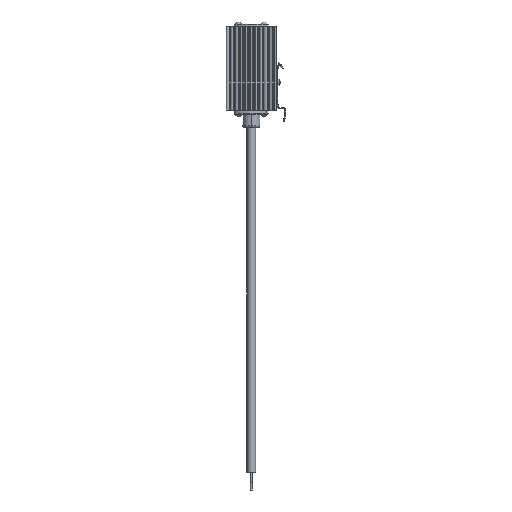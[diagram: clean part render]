
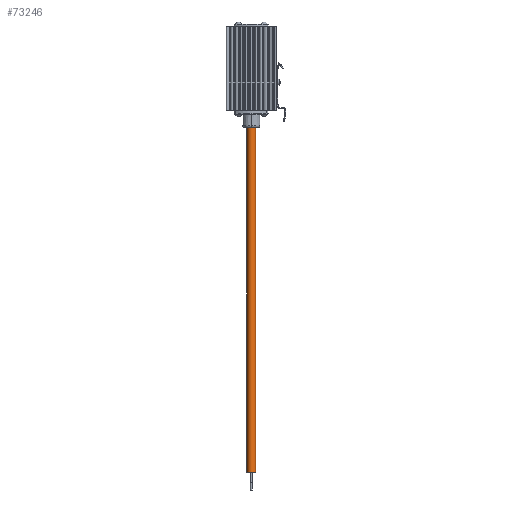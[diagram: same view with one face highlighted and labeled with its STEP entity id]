
A CAD part, front view. The second image highlights one B-rep face of the part: STEP entity #73246.
In plain terms, the highlighted cylindrical face has radius 3.9 mm (diameter 7.8 mm), a partial arc.
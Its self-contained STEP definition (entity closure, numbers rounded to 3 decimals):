
#2017 = DIRECTION ( 'NONE',  ( 0., 0., -1. ) ) ;
#3827 = VERTEX_POINT ( 'NONE', #13117 ) ;
#6440 = CIRCLE ( 'NONE', #9944, 3.9 ) ;
#7140 = EDGE_CURVE ( 'NONE', #3827, #37794, #91796, .T. ) ;
#7247 = VECTOR ( 'NONE', #28785, 1000. ) ;
#9944 = AXIS2_PLACEMENT_3D ( 'NONE', #31496, #81604, #38686 ) ;
#13117 = CARTESIAN_POINT ( 'NONE',  ( -3.16, -12.8, 145.791 ) ) ;
#13548 = CARTESIAN_POINT ( 'NONE',  ( -7.06, -8.9, 202.548 ) ) ;
#13936 = VERTEX_POINT ( 'NONE', #14276 ) ;
#14276 = CARTESIAN_POINT ( 'NONE',  ( 0.74, -8.9, -188.453 ) ) ;
#14833 = ORIENTED_EDGE ( 'NONE', *, *, #60988, .F. ) ;
#16799 = VECTOR ( 'NONE', #78100, 1000. ) ;
#23161 = CARTESIAN_POINT ( 'NONE',  ( -3.16, -8.9, 202.548 ) ) ;
#27440 = DIRECTION ( 'NONE',  ( 0., 0., -1. ) ) ;
#28785 = DIRECTION ( 'NONE',  ( 0., 0., -1. ) ) ;
#29952 = EDGE_CURVE ( 'NONE', #45291, #3827, #6440, .T. ) ;
#30725 = DIRECTION ( 'NONE',  ( 0., 0., -1. ) ) ;
#31496 = CARTESIAN_POINT ( 'NONE',  ( -3.16, -8.9, 145.791 ) ) ;
#37794 = VERTEX_POINT ( 'NONE', #56504 ) ;
#37823 = CIRCLE ( 'NONE', #82842, 3.9 ) ;
#38406 = ORIENTED_EDGE ( 'NONE', *, *, #53623, .T. ) ;
#38686 = DIRECTION ( 'NONE',  ( -1., 0., 0. ) ) ;
#40761 = AXIS2_PLACEMENT_3D ( 'NONE', #23161, #30725, #88329 ) ;
#43205 = CARTESIAN_POINT ( 'NONE',  ( 0.74, -8.9, 202.548 ) ) ;
#45061 = CARTESIAN_POINT ( 'NONE',  ( -3.16, -8.9, -188.453 ) ) ;
#45291 = VERTEX_POINT ( 'NONE', #49365 ) ;
#45468 = LINE ( 'NONE', #43205, #7247 ) ;
#49255 = EDGE_CURVE ( 'NONE', #13936, #79731, #37823, .T. ) ;
#49365 = CARTESIAN_POINT ( 'NONE',  ( 0.74, -8.9, 145.791 ) ) ;
#49678 = EDGE_LOOP ( 'NONE', ( #56334, #38406, #62381, #14833, #92134 ) ) ;
#52272 = DIRECTION ( 'NONE',  ( 1., 0., 0. ) ) ;
#53623 = EDGE_CURVE ( 'NONE', #37794, #79731, #74002, .T. ) ;
#56334 = ORIENTED_EDGE ( 'NONE', *, *, #7140, .T. ) ;
#56504 = CARTESIAN_POINT ( 'NONE',  ( -7.06, -8.9, 145.791 ) ) ;
#56981 = FACE_OUTER_BOUND ( 'NONE', #49678, .T. ) ;
#60988 = EDGE_CURVE ( 'NONE', #45291, #13936, #45468, .T. ) ;
#62381 = ORIENTED_EDGE ( 'NONE', *, *, #49255, .F. ) ;
#64936 = CARTESIAN_POINT ( 'NONE',  ( -7.06, -8.9, -188.453 ) ) ;
#67040 = CYLINDRICAL_SURFACE ( 'NONE', #40761, 3.9 ) ;
#70324 = CARTESIAN_POINT ( 'NONE',  ( -3.16, -8.9, 145.791 ) ) ;
#73246 = ADVANCED_FACE ( 'NONE', ( #56981 ), #67040, .T. ) ;
#74002 = LINE ( 'NONE', #13548, #16799 ) ;
#77503 = DIRECTION ( 'NONE',  ( -1., 0., 0. ) ) ;
#78100 = DIRECTION ( 'NONE',  ( 0., 0., -1. ) ) ;
#79731 = VERTEX_POINT ( 'NONE', #64936 ) ;
#81604 = DIRECTION ( 'NONE',  ( 0., 0., -1. ) ) ;
#82842 = AXIS2_PLACEMENT_3D ( 'NONE', #45061, #2017, #52272 ) ;
#83725 = AXIS2_PLACEMENT_3D ( 'NONE', #70324, #27440, #77503 ) ;
#88329 = DIRECTION ( 'NONE',  ( 1., 0., 0. ) ) ;
#91796 = CIRCLE ( 'NONE', #83725, 3.9 ) ;
#92134 = ORIENTED_EDGE ( 'NONE', *, *, #29952, .T. ) ;
